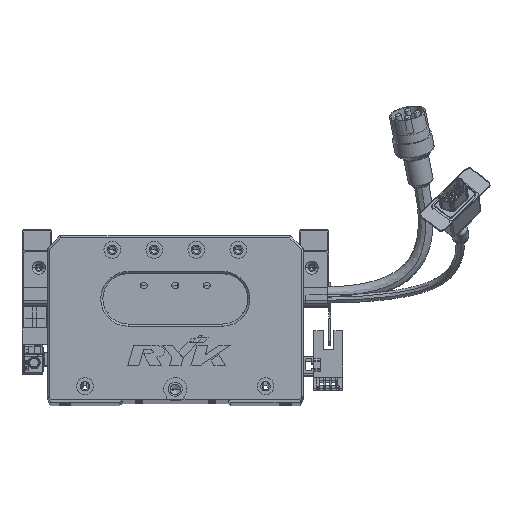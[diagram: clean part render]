
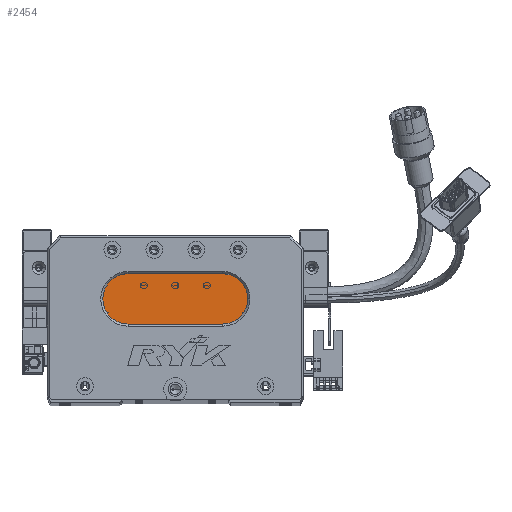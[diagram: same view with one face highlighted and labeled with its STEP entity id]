
A CAD part, top view. The second image highlights one B-rep face of the part: STEP entity #2454.
In plain terms, the highlighted planar face has unit normal (0, 0, 1) as drawn and (0, 0, -1) by its records, which use the part's own axes.
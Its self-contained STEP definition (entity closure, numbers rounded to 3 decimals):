
#567 = VERTEX_POINT ( 'NONE', #48330 ) ;
#2283 = DIRECTION ( 'NONE',  ( -1., 0., 0. ) ) ;
#2454 = ADVANCED_FACE ( 'NONE', ( #41764 ), #14143, .T. ) ;
#3739 = LINE ( 'NONE', #11062, #78826 ) ;
#5869 = EDGE_CURVE ( 'NONE', #7594, #59696, #11847, .T. ) ;
#7594 = VERTEX_POINT ( 'NONE', #85716 ) ;
#10192 = DIRECTION ( 'NONE',  ( -1., 0., 0. ) ) ;
#11062 = CARTESIAN_POINT ( 'NONE',  ( 83.5, 36., 13. ) ) ;
#11847 = LINE ( 'NONE', #78090, #61806 ) ;
#13579 = DIRECTION ( 'NONE',  ( 0., 0., -1. ) ) ;
#13808 = AXIS2_PLACEMENT_3D ( 'NONE', #75447, #27984, #2283 ) ;
#14143 = PLANE ( 'NONE',  #41873 ) ;
#14360 = DIRECTION ( 'NONE',  ( -1., 0., 0. ) ) ;
#17843 = ORIENTED_EDGE ( 'NONE', *, *, #5869, .T. ) ;
#21797 = DIRECTION ( 'NONE',  ( -1., 0., 0. ) ) ;
#27984 = DIRECTION ( 'NONE',  ( 0., 0., -1. ) ) ;
#32953 = CIRCLE ( 'NONE', #60361, 12. ) ;
#33167 = VERTEX_POINT ( 'NONE', #62275 ) ;
#36028 = CARTESIAN_POINT ( 'NONE',  ( 38.5, 48., 13. ) ) ;
#36414 = ORIENTED_EDGE ( 'NONE', *, *, #80850, .T. ) ;
#39472 = EDGE_CURVE ( 'NONE', #62782, #7594, #63764, .T. ) ;
#41764 = FACE_OUTER_BOUND ( 'NONE', #56498, .T. ) ;
#41873 = AXIS2_PLACEMENT_3D ( 'NONE', #73268, #13579, #73827 ) ;
#48133 = DIRECTION ( 'NONE',  ( 0., 0., -1. ) ) ;
#48330 = CARTESIAN_POINT ( 'NONE',  ( 38.5, 36., 13. ) ) ;
#52976 = CARTESIAN_POINT ( 'NONE',  ( 26.5, 48., 13. ) ) ;
#53517 = ORIENTED_EDGE ( 'NONE', *, *, #39472, .T. ) ;
#54616 = EDGE_CURVE ( 'NONE', #567, #62782, #79914, .T. ) ;
#54942 = EDGE_CURVE ( 'NONE', #33167, #567, #3739, .T. ) ;
#56498 = EDGE_LOOP ( 'NONE', ( #36414, #80728, #84707, #53517, #17843 ) ) ;
#59696 = VERTEX_POINT ( 'NONE', #81722 ) ;
#60361 = AXIS2_PLACEMENT_3D ( 'NONE', #82213, #48133, #14360 ) ;
#61806 = VECTOR ( 'NONE', #64117, 1000. ) ;
#62140 = AXIS2_PLACEMENT_3D ( 'NONE', #36028, #82649, #21797 ) ;
#62275 = CARTESIAN_POINT ( 'NONE',  ( 83.5, 36., 13. ) ) ;
#62782 = VERTEX_POINT ( 'NONE', #52976 ) ;
#63764 = CIRCLE ( 'NONE', #13808, 12. ) ;
#64117 = DIRECTION ( 'NONE',  ( 1., 0., 0. ) ) ;
#73268 = CARTESIAN_POINT ( 'NONE',  ( 83.5, 48., 13. ) ) ;
#73827 = DIRECTION ( 'NONE',  ( -1., 0., 0. ) ) ;
#75447 = CARTESIAN_POINT ( 'NONE',  ( 38.5, 48., 13. ) ) ;
#78090 = CARTESIAN_POINT ( 'NONE',  ( 83.5, 60., 13. ) ) ;
#78826 = VECTOR ( 'NONE', #10192, 1000. ) ;
#79914 = CIRCLE ( 'NONE', #62140, 12. ) ;
#80728 = ORIENTED_EDGE ( 'NONE', *, *, #54942, .T. ) ;
#80850 = EDGE_CURVE ( 'NONE', #59696, #33167, #32953, .T. ) ;
#81722 = CARTESIAN_POINT ( 'NONE',  ( 83.5, 60., 13. ) ) ;
#82213 = CARTESIAN_POINT ( 'NONE',  ( 83.5, 48., 13. ) ) ;
#82649 = DIRECTION ( 'NONE',  ( 0., 0., -1. ) ) ;
#84707 = ORIENTED_EDGE ( 'NONE', *, *, #54616, .T. ) ;
#85716 = CARTESIAN_POINT ( 'NONE',  ( 38.5, 60., 13. ) ) ;
